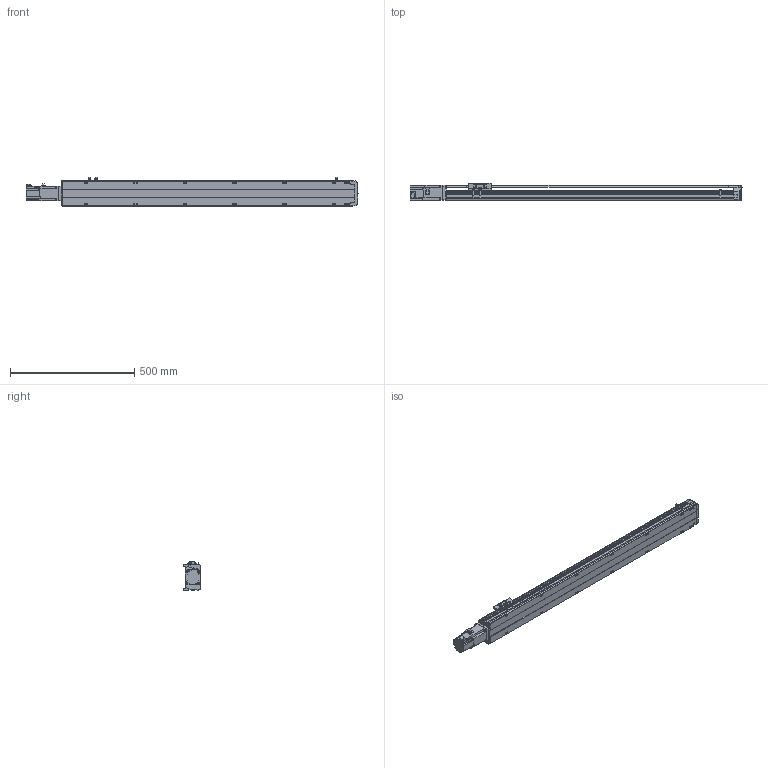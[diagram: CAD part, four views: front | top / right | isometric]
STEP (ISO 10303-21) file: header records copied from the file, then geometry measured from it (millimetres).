
FILE_DESCRIPTION( ( 'STEP AP214' ), '1' );
FILE_NAME( 'x:/temp/worker_13/temp/exporttempdir_3252_150_rE1tW/format_0/PSS120-L10-S950-BC-T40-C1-N(0).stp', '2022-06-02T00:33:43', ( 'License CC BY-ND 4.0' ), ( 'CADENAS' ), ' ', 'PARTsolutions', ' ' );
FILE_SCHEMA( ( 'AUTOMOTIVE_DESIGN { 1 0 10303 214 1 1 1 1 }' ) );
Length unit declared in the file: millimetre
Products named in the file (8): PSS120-L10-S950-BC-T40-C1-N(0); _PSS120-S950-BC-C1-N_body; _PSS120-N_Q; _PSS120-BC-C1-N_sl; _PSS120-N_sensor; _PSS120BC-N_h; _T40-p1; _PSS120-S950-BC-N_S
Assembly tree (9 placements, depth 2):
  PSS120-L10-S950-BC-T40-C1-N(0)
    _PSS120-S950-BC-C1-N_body
    _PSS120-N_Q
    _PSS120-BC-C1-N_sl
    _PSS120-N_sensor  x3
    _PSS120BC-N_h
    _T40-p1
    _PSS120-S950-BC-N_S
Bounding box: 1338.7 x 70 x 117.7 mm (x, y, z)
Volume: 4249112.8 mm3; surface area: 757706.4 mm2
Topology: 9 solids, 9 shells, 849 faces, 2264 edges, 1500 vertices
Faces by surface type: plane 565, cylinder 258, cone 26
Full cylindrical faces by diameter (mm): 2.8 x3, 4 x4, 4.134 x18, 4.2 x4, 4.4 x2, 4.5 x4, 4.6 x3, 4.917 x4, 5 x6, 5.5 x21, 7 x2, 8 x8, 8.5 x18, 14 x1, 28 x1, 32 x1, 50 x1
Entity records: 29093 total; most frequent: CARTESIAN_POINT 4514, DIRECTION 3821, ORIENTED_EDGE 3670, EDGE_CURVE 1835, VERTEX_POINT 1286, AXIS2_PLACEMENT_3D 1279, LINE 1263, VECTOR 1263
